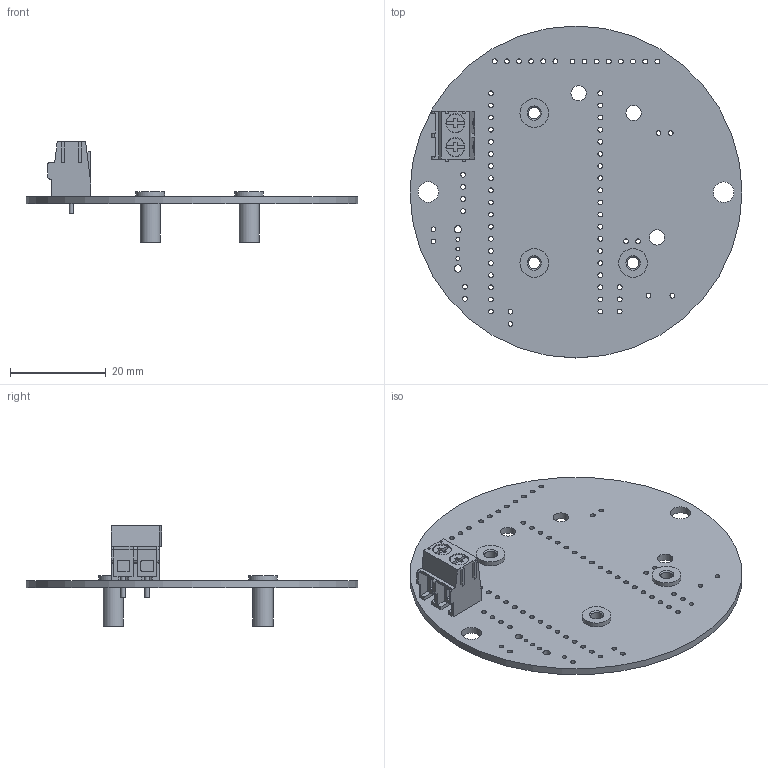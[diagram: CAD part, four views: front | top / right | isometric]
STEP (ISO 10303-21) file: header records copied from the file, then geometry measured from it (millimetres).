
FILE_DESCRIPTION(('KiCad electronic assembly'),'2;1');
FILE_NAME('.step','2026-08-30T18:45:27',('Pcbnew'),('Kicad'), 'Open CASCADE STEP processor 7.8','KiCad to STEP converter','Unknown' );
FILE_SCHEMA(('AUTOMOTIVE_DESIGN { 1 0 10303 214 1 1 1 1 }'));
Length unit declared in the file: millimetre
Products named in the file (4): .step 1; Mounting_Wuerth_WA-SMSR-M3_H9.6mm_ReverseMount_9775096360; TerminalBlock_Phoenix_PT-1,5-2-5.0-H_1x02_P5.00mm_Horizontal; OBC_PCB
Assembly tree (5 placements, depth 2):
  .step 1
    Mounting_Wuerth_WA-SMSR-M3_H9.6mm_ReverseMount_9775096360  x3
    TerminalBlock_Phoenix_PT-1,5-2-5.0-H_1x02_P5.00mm_Horizontal
    OBC_PCB
Bounding box: 69.53 x 69.53 x 21 mm (x, y, z)
Volume: 6517.2 mm3; surface area: 10026.2 mm2
Topology: 5 solids, 5 shells, 236 faces, 636 edges, 421 vertices
Faces by surface type: cylinder 122, plane 111, cone 3
Full cylindrical faces by diameter (mm): 0.8 x3, 1 x73, 1.5 x2, 1.52 x2, 2.2 x2, 2.46 x3, 3.2 x6, 3.8 x2, 4 x2, 4.2 x3, 4.3 x2, 6 x3, 69.527 x1
Entity records: 8803 total; most frequent: DIRECTION 1313, CARTESIAN_POINT 1249, ORIENTED_EDGE 1228, EDGE_CURVE 614, AXIS2_PLACEMENT_3D 471, FACE_BOUND 407, EDGE_LOOP 407, VERTEX_POINT 407
